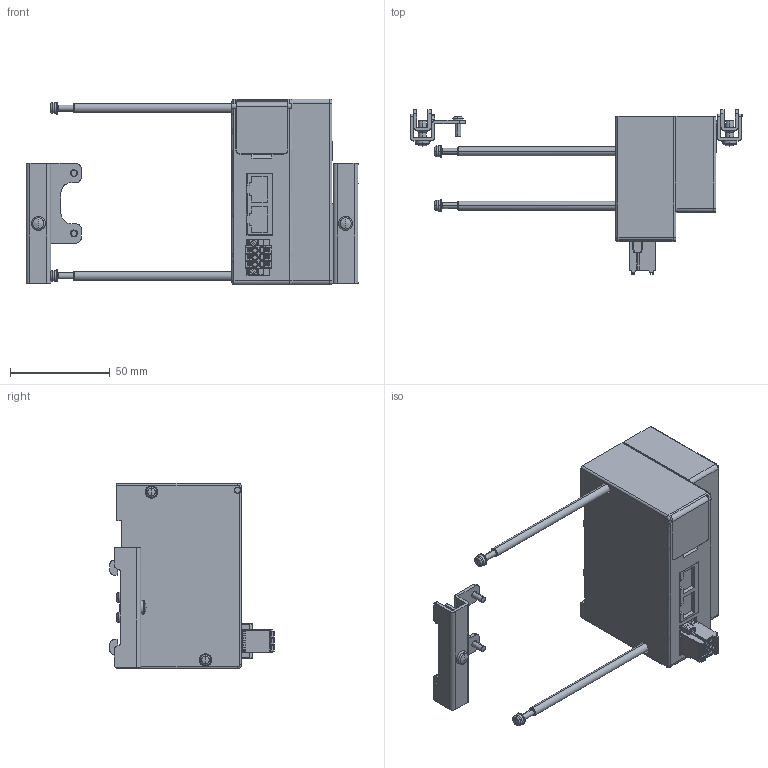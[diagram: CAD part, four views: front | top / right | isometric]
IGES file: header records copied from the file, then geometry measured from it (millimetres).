
Start section: ------------------------------------------------------------------------
Bounding box: 166 x 82.1 x 93 mm (x, y, z)
Volume: 266363 mm3; surface area: 47545.3 mm2
Topology: 3 solids, 3 shells, 971 faces, 2541 edges, 1629 vertices
Faces by surface type: bspline 971
